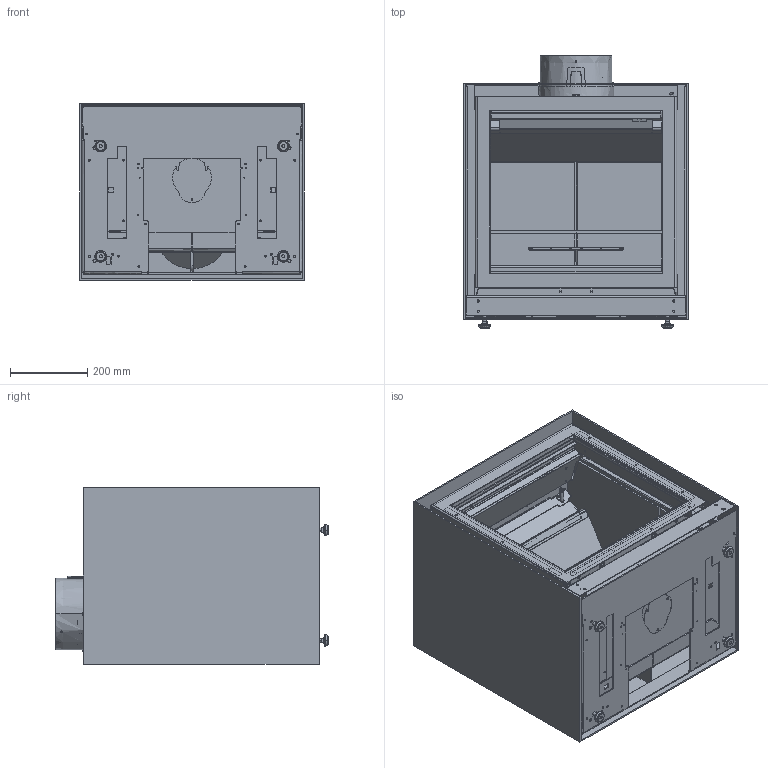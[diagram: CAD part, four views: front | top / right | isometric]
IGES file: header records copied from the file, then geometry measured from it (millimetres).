
Start section:  PTC IGES file: 1658cube.igs
Global section: file name: 1658cube.igs; native system: Creo Parametric by Parametric Technology Corporation; preprocessor: 2012230; author: jbo; organization: Unknown; date: 20121108.154401; units: millimetre
Bounding box: 580 x 703 x 455.8 mm (x, y, z)
Volume: 24244496.6 mm3; surface area: 7333762.4 mm2
Topology: 20 solids, 22 shells, 3415 faces, 9496 edges, 6059 vertices
Faces by surface type: bspline 2015, revolution 1395, extrusion 5
